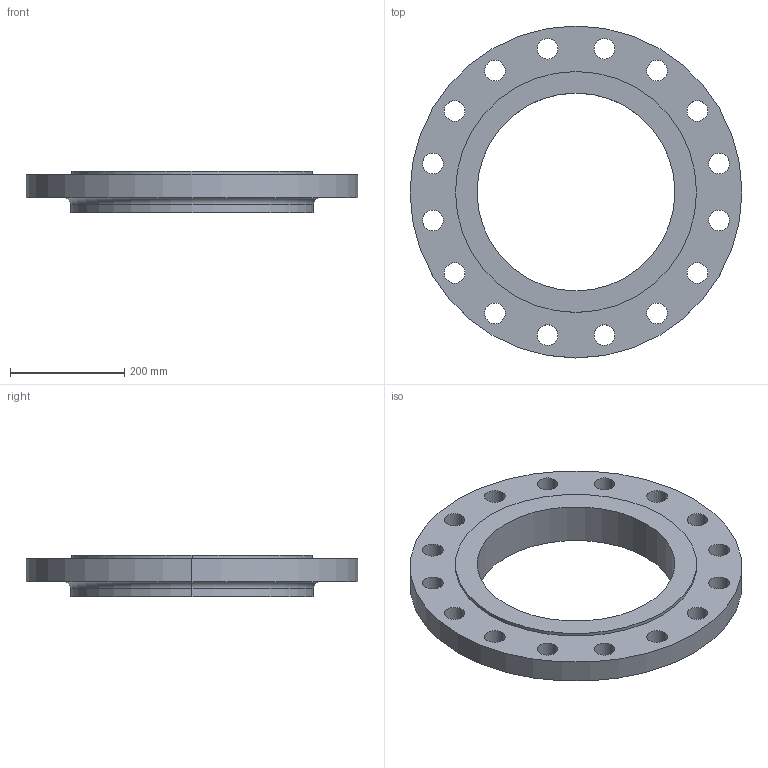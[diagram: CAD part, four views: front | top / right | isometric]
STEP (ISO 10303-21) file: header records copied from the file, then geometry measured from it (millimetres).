
FILE_DESCRIPTION (( 'STEP AP214' ), '1' );
FILE_NAME ('PN40 DN350 Type 13 - Type E Face.STEP', '2019-01-05T21:48:20', ( '' ), ( '' ), 'SwSTEP 2.0', 'SolidWorks 2019', '' );
FILE_SCHEMA (( 'AUTOMOTIVE_DESIGN' ));
Length unit declared in the file: millimetre
Products named in the file (1): PN40 DN350 Type 13 - Type E Face
Bounding box: 580 x 580 x 72 mm (x, y, z)
Volume: 7762364.3 mm3; surface area: 568535.5 mm2
Topology: 1 solids, 1 shells, 46 faces, 124 edges, 82 vertices
Faces by surface type: cylinder 40, plane 4, torus 2
Entity records: 1598 total; most frequent: DIRECTION 302, CARTESIAN_POINT 253, ORIENTED_EDGE 248, AXIS2_PLACEMENT_3D 131, EDGE_CURVE 124, CIRCLE 84, EDGE_LOOP 82, VERTEX_POINT 82
